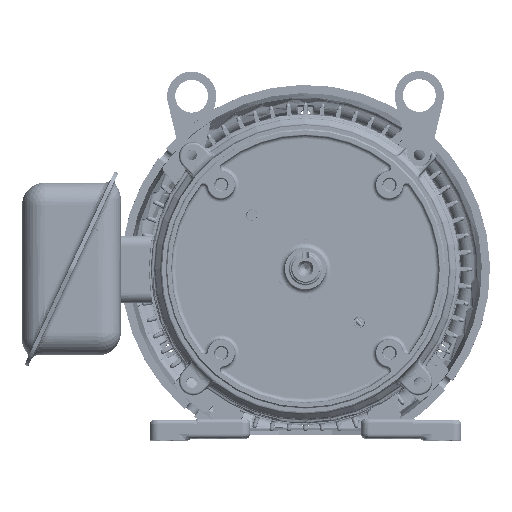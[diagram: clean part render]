
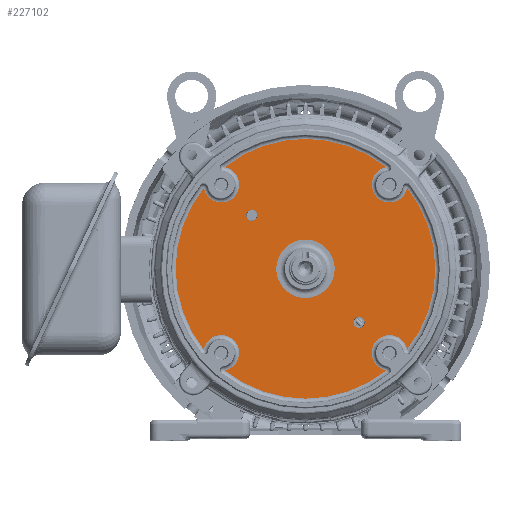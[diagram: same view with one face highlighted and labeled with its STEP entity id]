
A CAD part, top view. The second image highlights one B-rep face of the part: STEP entity #227102.
In plain terms, the highlighted planar face has unit normal (0, 0, 1) as drawn and (0, 0, -1) by its records, which use the part's own axes.
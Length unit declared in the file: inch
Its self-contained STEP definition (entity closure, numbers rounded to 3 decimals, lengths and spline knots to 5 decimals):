
#210529=CARTESIAN_POINT('',(-1.63518,-1.63518,-1.391));
#210530=DIRECTION('',(0.,0.,1.));
#210531=DIRECTION('',(-1.,0.,0.));
#210532=AXIS2_PLACEMENT_3D('',#210529,#210530,#210531);
#210534=CARTESIAN_POINT('',(-1.63518,-1.63518,-1.391));
#210535=DIRECTION('',(0.,0.,1.));
#210536=DIRECTION('',(1.,0.,0.));
#210537=AXIS2_PLACEMENT_3D('',#210534,#210535,#210536);
#210539=CARTESIAN_POINT('',(1.63518,1.63518,-1.391));
#210540=DIRECTION('',(0.,0.,1.));
#210541=DIRECTION('',(-1.,0.,0.));
#210542=AXIS2_PLACEMENT_3D('',#210539,#210540,#210541);
#210544=CARTESIAN_POINT('',(1.63518,1.63518,-1.391));
#210545=DIRECTION('',(0.,0.,1.));
#210546=DIRECTION('',(1.,0.,0.));
#210547=AXIS2_PLACEMENT_3D('',#210544,#210545,#210546);
#210549=CARTESIAN_POINT('',(0.,0.,-1.391));
#210550=DIRECTION('',(0.,0.,1.));
#210551=DIRECTION('',(-1.,0.,0.));
#210552=AXIS2_PLACEMENT_3D('',#210549,#210550,#210551);
#210554=CARTESIAN_POINT('',(0.,0.,-1.391));
#210555=DIRECTION('',(0.,0.,1.));
#210556=DIRECTION('',(1.,0.,0.));
#210557=AXIS2_PLACEMENT_3D('',#210554,#210555,#210556);
#210569=CARTESIAN_POINT('',(0.,0.,-1.391));
#210570=DIRECTION('',(0.,0.,-1.));
#210571=DIRECTION('',(-0.782,-0.623,0.));
#210572=AXIS2_PLACEMENT_3D('',#210569,#210570,#210571);
#217187=CARTESIAN_POINT('',(0.,0.,-1.391));
#217188=DIRECTION('',(0.,0.,-1.));
#217189=DIRECTION('',(-0.623,0.782,0.));
#217190=AXIS2_PLACEMENT_3D('',#217187,#217188,#217189);
#217267=CARTESIAN_POINT('',(-2.56326,2.56326,-1.391));
#217268=DIRECTION('',(0.,0.,1.));
#217269=DIRECTION('',(-0.983,-0.182,0.));
#217270=AXIS2_PLACEMENT_3D('',#217267,#217268,#217269);
#217287=CARTESIAN_POINT('',(2.56326,2.56326,-1.391));
#217288=DIRECTION('',(0.,0.,1.));
#217289=DIRECTION('',(-0.182,0.983,0.));
#217290=AXIS2_PLACEMENT_3D('',#217287,#217288,#217289);
#217337=CARTESIAN_POINT('',(0.,0.,-1.391));
#217338=DIRECTION('',(0.,0.,-1.));
#217339=DIRECTION('',(0.782,0.623,0.));
#217340=AXIS2_PLACEMENT_3D('',#217337,#217338,#217339);
#217387=CARTESIAN_POINT('',(2.56326,-2.56326,-1.391));
#217388=DIRECTION('',(0.,0.,1.));
#217389=DIRECTION('',(0.983,0.182,0.));
#217390=AXIS2_PLACEMENT_3D('',#217387,#217388,#217389);
#217437=CARTESIAN_POINT('',(0.,0.,-1.391));
#217438=DIRECTION('',(0.,0.,-1.));
#217439=DIRECTION('',(0.623,-0.782,0.));
#217440=AXIS2_PLACEMENT_3D('',#217437,#217438,#217439);
#217487=CARTESIAN_POINT('',(-2.56326,-2.56326,-1.391));
#217488=DIRECTION('',(0.,0.,1.));
#217489=DIRECTION('',(0.182,-0.983,0.));
#217490=AXIS2_PLACEMENT_3D('',#217487,#217488,#217489);
#223840=CARTESIAN_POINT('',(-3.09683,-2.46469,-1.391));
#223841=CARTESIAN_POINT('',(-3.09683,2.46469,-1.391));
#223842=VERTEX_POINT('',#223840);
#223843=VERTEX_POINT('',#223841);
#223848=CARTESIAN_POINT('',(-2.46469,-3.09683,-1.391));
#223849=VERTEX_POINT('',#223848);
#223854=CARTESIAN_POINT('',(2.46469,-3.09683,-1.391));
#223855=VERTEX_POINT('',#223854);
#223860=CARTESIAN_POINT('',(3.09683,-2.46469,-1.391));
#223861=VERTEX_POINT('',#223860);
#223866=CARTESIAN_POINT('',(3.09683,2.46469,-1.391));
#223867=VERTEX_POINT('',#223866);
#223872=CARTESIAN_POINT('',(2.46469,3.09683,-1.391));
#223873=VERTEX_POINT('',#223872);
#223878=CARTESIAN_POINT('',(-2.46469,3.09683,-1.391));
#223879=VERTEX_POINT('',#223878);
#223890=CARTESIAN_POINT('',(-1.80668,-1.63518,-1.391));
#223891=CARTESIAN_POINT('',(-1.46368,-1.63518,-1.391));
#223892=VERTEX_POINT('',#223890);
#223893=VERTEX_POINT('',#223891);
#223898=CARTESIAN_POINT('',(1.46368,1.63518,-1.391));
#223899=CARTESIAN_POINT('',(1.80668,1.63518,-1.391));
#223900=VERTEX_POINT('',#223898);
#223901=VERTEX_POINT('',#223899);
#224512=CARTESIAN_POINT('',(-0.8915,0.,-1.391));
#224513=CARTESIAN_POINT('',(0.8915,0.,-1.391));
#224514=VERTEX_POINT('',#224512);
#224515=VERTEX_POINT('',#224513);
#227062=CARTESIAN_POINT('',(0.,0.,-1.391));
#227063=DIRECTION('',(0.,0.,-1.));
#227064=DIRECTION('',(1.,0.,0.));
#227065=AXIS2_PLACEMENT_3D('',#227062,#227063,#227064);
#227066=PLANE('',#227065);
#227068=ORIENTED_EDGE('',*,*,#227067,.F.);
#227070=ORIENTED_EDGE('',*,*,#227069,.F.);
#227072=ORIENTED_EDGE('',*,*,#227071,.F.);
#227074=ORIENTED_EDGE('',*,*,#227073,.F.);
#227076=ORIENTED_EDGE('',*,*,#227075,.F.);
#227078=ORIENTED_EDGE('',*,*,#227077,.F.);
#227080=ORIENTED_EDGE('',*,*,#227079,.F.);
#227082=ORIENTED_EDGE('',*,*,#227081,.F.);
#227083=EDGE_LOOP('',(#227068,#227070,#227072,#227074,#227076,#227078,#227080,
#227082));
#227084=FACE_OUTER_BOUND('',#227083,.F.);
#227086=ORIENTED_EDGE('',*,*,#227085,.F.);
#227087=ORIENTED_EDGE('',*,*,#227052,.F.);
#227088=EDGE_LOOP('',(#227086,#227087));
#227089=FACE_BOUND('',#227088,.F.);
#227091=ORIENTED_EDGE('',*,*,#227090,.F.);
#227093=ORIENTED_EDGE('',*,*,#227092,.F.);
#227094=EDGE_LOOP('',(#227091,#227093));
#227095=FACE_BOUND('',#227094,.F.);
#227097=ORIENTED_EDGE('',*,*,#227096,.F.);
#227099=ORIENTED_EDGE('',*,*,#227098,.F.);
#227100=EDGE_LOOP('',(#227097,#227099));
#227101=FACE_BOUND('',#227100,.F.);
#227102=ADVANCED_FACE('',(#227084,#227089,#227095,#227101),#227066,.T.);
#210533=CIRCLE('',#210532,0.1715);
#210538=CIRCLE('',#210537,0.1715);
#210543=CIRCLE('',#210542,0.1715);
#210548=CIRCLE('',#210547,0.1715);
#210553=CIRCLE('',#210552,0.8915);
#210558=CIRCLE('',#210557,0.8915);
#210573=CIRCLE('',#210572,3.95791);
#217191=CIRCLE('',#217190,3.95791);
#217271=CIRCLE('',#217270,0.54259);
#217291=CIRCLE('',#217290,0.54259);
#217341=CIRCLE('',#217340,3.95791);
#217391=CIRCLE('',#217390,0.54259);
#217441=CIRCLE('',#217440,3.95791);
#217491=CIRCLE('',#217490,0.54259);
#227052=EDGE_CURVE('',#223893,#223892,#210538,.T.);
#227067=EDGE_CURVE('',#223842,#223843,#210573,.T.);
#227069=EDGE_CURVE('',#223849,#223842,#217491,.T.);
#227071=EDGE_CURVE('',#223855,#223849,#217441,.T.);
#227073=EDGE_CURVE('',#223861,#223855,#217391,.T.);
#227075=EDGE_CURVE('',#223867,#223861,#217341,.T.);
#227077=EDGE_CURVE('',#223873,#223867,#217291,.T.);
#227079=EDGE_CURVE('',#223879,#223873,#217191,.T.);
#227081=EDGE_CURVE('',#223843,#223879,#217271,.T.);
#227085=EDGE_CURVE('',#223892,#223893,#210533,.T.);
#227090=EDGE_CURVE('',#223900,#223901,#210543,.T.);
#227092=EDGE_CURVE('',#223901,#223900,#210548,.T.);
#227096=EDGE_CURVE('',#224514,#224515,#210553,.T.);
#227098=EDGE_CURVE('',#224515,#224514,#210558,.T.);
